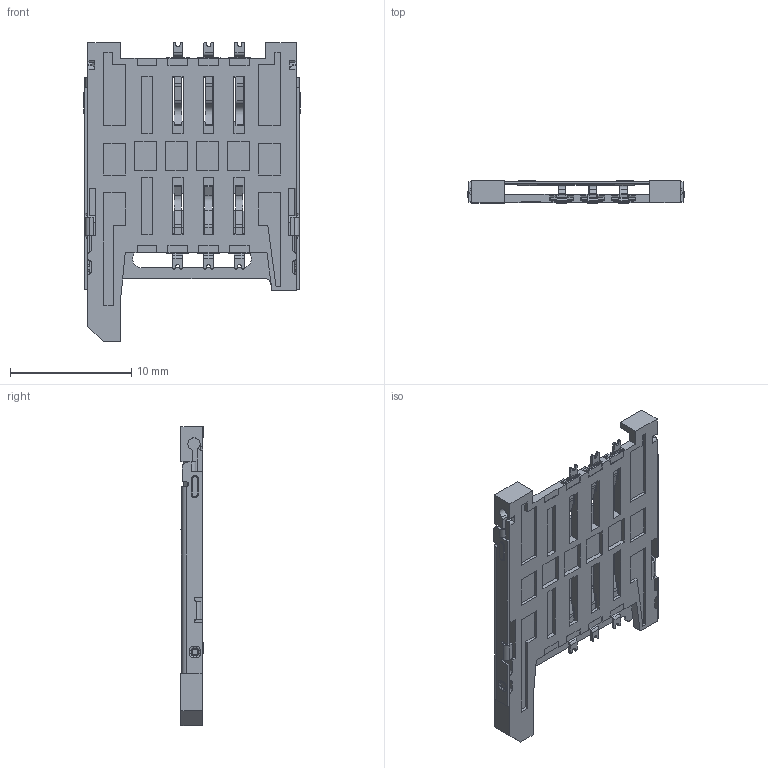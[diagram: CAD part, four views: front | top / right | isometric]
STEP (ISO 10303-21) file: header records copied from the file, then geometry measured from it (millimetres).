
FILE_DESCRIPTION((''),'2;1');
FILE_NAME('SIM-CARD_1050603DR014','2018-09-06T',('Administrator'),(''),'PRO/ENGINEER BY PARAMETRIC TECHNOLOGY CORPORATION, 2010280','PRO/ENGINEER BY PARAMETRIC TECHNOLOGY CORPORATION, 2010280','');
FILE_SCHEMA(('CONFIG_CONTROL_DESIGN'));
Length unit declared in the file: millimetre
Products named in the file (1): SIM-CARD_1050603DR014
Bounding box: 17.81 x 1.84 x 24.7 mm (x, y, z)
Surface area: 1506.6 mm2
Topology: 6 solids, 8 shells, 1040 faces, 2631 edges, 1617 vertices
Faces by surface type: plane 747, cylinder 226, extrusion 31, bspline 18, torus 18
Entity records: 33816 total; most frequent: CARTESIAN_POINT 8895, ORIENTED_EDGE 5223, DIRECTION 4970, EDGE_CURVE 2621, VECTOR 2064, LINE 2033, VERTEX_POINT 1617, AXIS2_PLACEMENT_3D 1453
